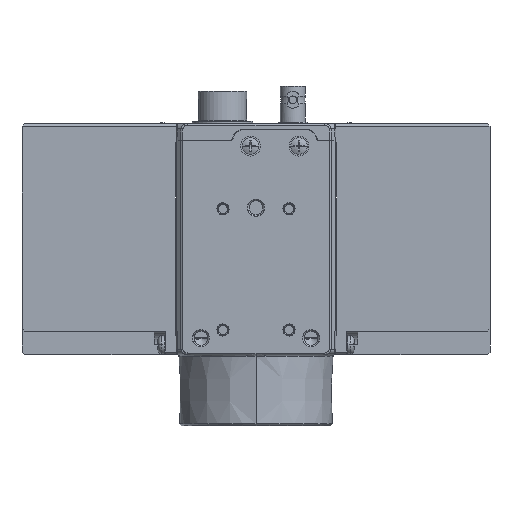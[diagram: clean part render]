
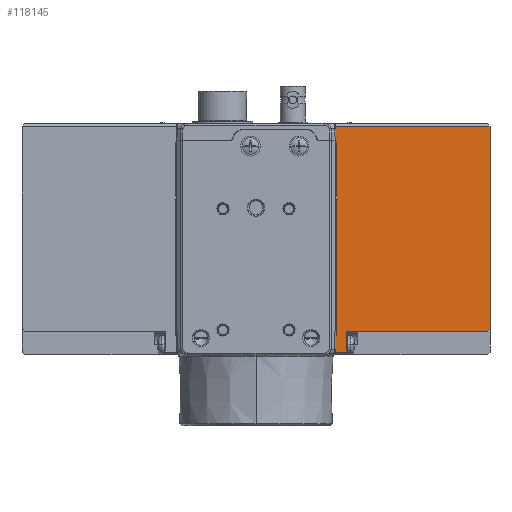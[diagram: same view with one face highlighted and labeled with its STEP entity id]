
A CAD part, front view. The second image highlights one B-rep face of the part: STEP entity #118145.
In plain terms, the highlighted planar face has unit normal (0, -1, 0) as drawn and (-1, 0, 0) by its records, which use the part's own axes.
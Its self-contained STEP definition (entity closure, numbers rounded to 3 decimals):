
#117075=DIRECTION('',(0.,0.,-1.));
#117076=VECTOR('',#117075,35.);
#117077=CARTESIAN_POINT('',(-13.36,0.15,17.5));
#117078=LINE('',#117077,#117076);
#117079=DIRECTION('',(0.,-1.,0.));
#117080=VECTOR('',#117079,0.15);
#117081=CARTESIAN_POINT('',(-13.36,0.15,-17.5));
#117082=LINE('',#117081,#117080);
#117083=DIRECTION('',(0.,0.,-1.));
#117084=VECTOR('',#117083,2.9);
#117085=CARTESIAN_POINT('',(-13.36,0.,-17.5));
#117086=LINE('',#117085,#117084);
#117087=DIRECTION('',(0.,1.,0.));
#117088=VECTOR('',#117087,28.);
#117089=CARTESIAN_POINT('',(-13.36,0.,-20.4));
#117090=LINE('',#117089,#117088);
#117091=DIRECTION('',(0.,-0.707,0.707));
#117092=VECTOR('',#117091,0.707);
#117093=CARTESIAN_POINT('',(-13.36,28.,16.2));
#117094=LINE('',#117093,#117092);
#117095=DIRECTION('',(0.,-1.,0.));
#117096=VECTOR('',#117095,25.5);
#117097=CARTESIAN_POINT('',(-13.36,27.5,16.7));
#117098=LINE('',#117097,#117096);
#117099=DIRECTION('',(0.,0.,-1.));
#117100=VECTOR('',#117099,3.);
#117101=CARTESIAN_POINT('',(-13.36,0.,20.5));
#117102=LINE('',#117101,#117100);
#117139=DIRECTION('',(0.,-1.,0.));
#117140=VECTOR('',#117139,0.15);
#117141=CARTESIAN_POINT('',(-13.36,0.15,17.5));
#117142=LINE('',#117141,#117140);
#117175=DIRECTION('',(0.,1.,0.));
#117176=VECTOR('',#117175,2.);
#117177=CARTESIAN_POINT('',(-13.36,0.,20.5));
#117178=LINE('',#117177,#117176);
#117183=DIRECTION('',(0.,0.,-1.));
#117184=VECTOR('',#117183,3.8);
#117185=CARTESIAN_POINT('',(-13.36,2.,20.5));
#117186=LINE('',#117185,#117184);
#117250=DIRECTION('',(0.,0.,-1.));
#117251=VECTOR('',#117250,36.6);
#117252=CARTESIAN_POINT('',(-13.36,28.,16.2));
#117253=LINE('',#117252,#117251);
#117824=CARTESIAN_POINT('',(-13.36,0.,-17.5));
#117826=VERTEX_POINT('',#117824);
#117833=CARTESIAN_POINT('',(-13.36,0.,-20.4));
#117834=VERTEX_POINT('',#117833);
#117844=CARTESIAN_POINT('',(-13.36,0.,17.5));
#117846=VERTEX_POINT('',#117844);
#117847=CARTESIAN_POINT('',(-13.36,0.,20.5));
#117848=VERTEX_POINT('',#117847);
#117912=CARTESIAN_POINT('',(-13.36,2.,20.5));
#117914=VERTEX_POINT('',#117912);
#117915=CARTESIAN_POINT('',(-13.36,2.,16.7));
#117916=VERTEX_POINT('',#117915);
#117951=CARTESIAN_POINT('',(-13.36,0.15,-17.5));
#117952=VERTEX_POINT('',#117951);
#117953=CARTESIAN_POINT('',(-13.36,0.15,17.5));
#117954=VERTEX_POINT('',#117953);
#117955=CARTESIAN_POINT('',(-13.36,28.,-20.4));
#117956=VERTEX_POINT('',#117955);
#117957=CARTESIAN_POINT('',(-13.36,28.,16.2));
#117958=VERTEX_POINT('',#117957);
#117959=CARTESIAN_POINT('',(-13.36,27.5,16.7));
#117960=VERTEX_POINT('',#117959);
#118118=CARTESIAN_POINT('',(-13.36,0.,-21.));
#118119=DIRECTION('',(-1.,0.,0.));
#118120=DIRECTION('',(0.,0.,1.));
#118121=AXIS2_PLACEMENT_3D('',#118118,#118119,#118120);
#118122=PLANE('',#118121);
#118124=ORIENTED_EDGE('',*,*,#118123,.T.);
#118125=ORIENTED_EDGE('',*,*,#118109,.T.);
#118126=ORIENTED_EDGE('',*,*,#118086,.T.);
#118128=ORIENTED_EDGE('',*,*,#118127,.T.);
#118130=ORIENTED_EDGE('',*,*,#118129,.F.);
#118132=ORIENTED_EDGE('',*,*,#118131,.T.);
#118134=ORIENTED_EDGE('',*,*,#118133,.T.);
#118136=ORIENTED_EDGE('',*,*,#118135,.F.);
#118138=ORIENTED_EDGE('',*,*,#118137,.F.);
#118140=ORIENTED_EDGE('',*,*,#118139,.T.);
#118142=ORIENTED_EDGE('',*,*,#118141,.F.);
#118143=EDGE_LOOP('',(#118124,#118125,#118126,#118128,#118130,#118132,#118134,
#118136,#118138,#118140,#118142));
#118144=FACE_OUTER_BOUND('',#118143,.F.);
#118145=ADVANCED_FACE('',(#118144),#118122,.T.);
#118086=EDGE_CURVE('',#117826,#117834,#117086,.T.);
#118109=EDGE_CURVE('',#117952,#117826,#117082,.T.);
#118123=EDGE_CURVE('',#117954,#117952,#117078,.T.);
#118127=EDGE_CURVE('',#117834,#117956,#117090,.T.);
#118129=EDGE_CURVE('',#117958,#117956,#117253,.T.);
#118131=EDGE_CURVE('',#117958,#117960,#117094,.T.);
#118133=EDGE_CURVE('',#117960,#117916,#117098,.T.);
#118135=EDGE_CURVE('',#117914,#117916,#117186,.T.);
#118137=EDGE_CURVE('',#117848,#117914,#117178,.T.);
#118139=EDGE_CURVE('',#117848,#117846,#117102,.T.);
#118141=EDGE_CURVE('',#117954,#117846,#117142,.T.);
